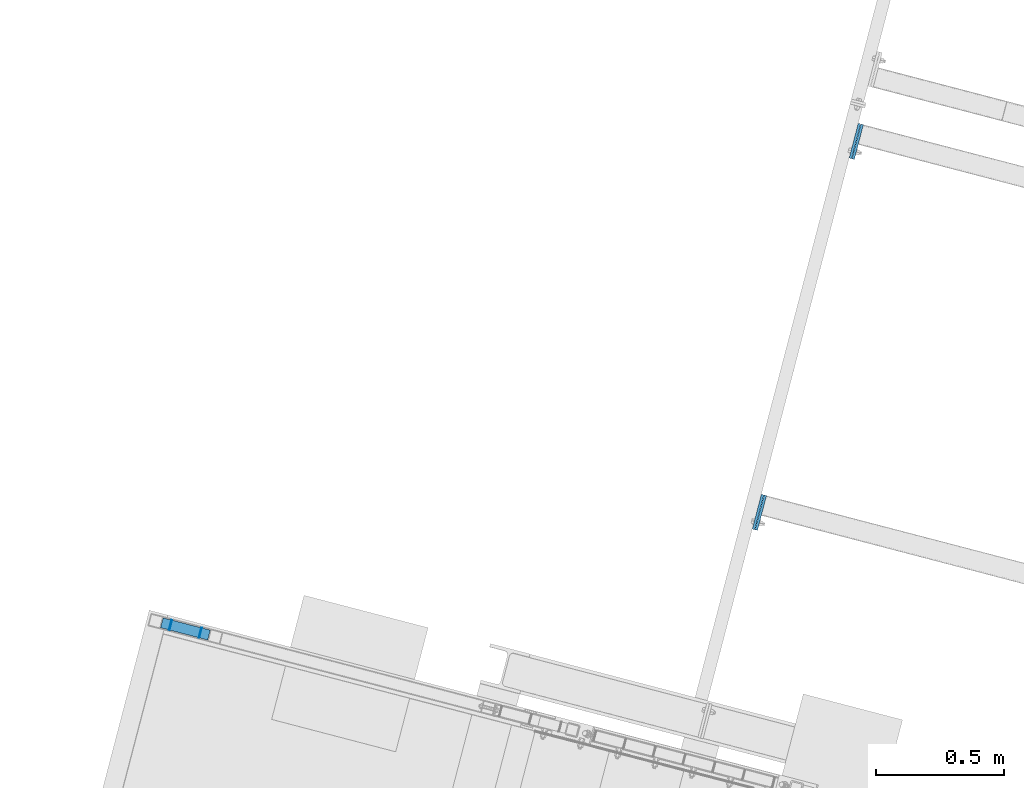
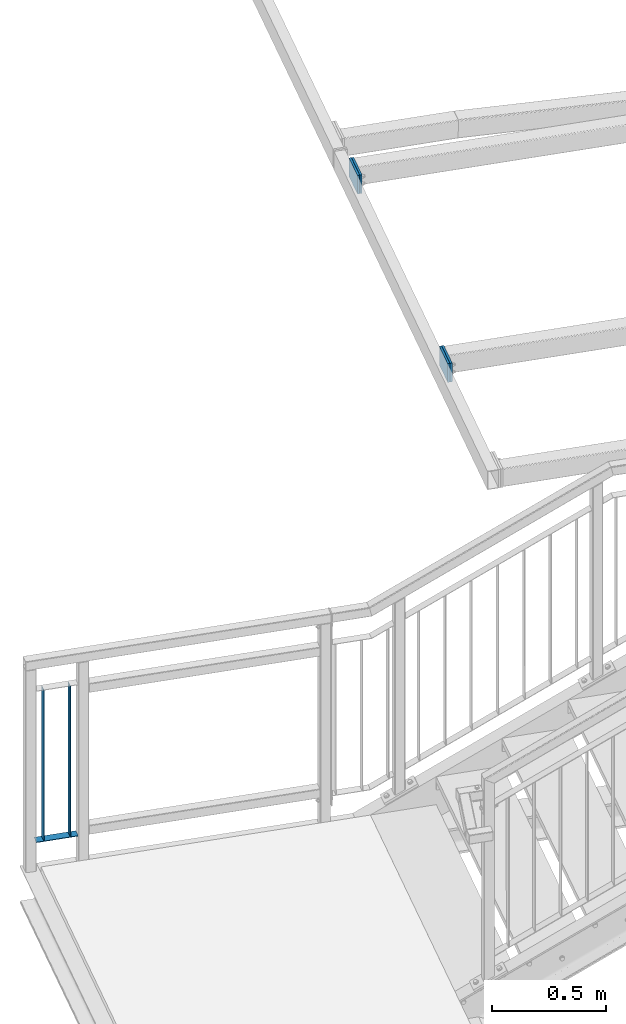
# One storey, part 79 of 169: 7 discrete accessories, 3 elements without a shape of their own.
"""IFC2X3 building model written with IfcOpenShell, lengths in millimetres."""

from ifc_helpers import new_model, si_unit, frame, origin_with_axes, place, context, subcontext, project, spatial, polyline, outline, extrude, clip, halfspace, material, type_object, element, aggregate, save


model = new_model("IFC2X3")

# Units and contexts
model_context = context("Model", 3, precision=1e-05, world=origin_with_axes())
body_context = subcontext(model_context, "Body", "Model", "MODEL_VIEW")
ifc_project = project(units=[si_unit("LENGTHUNIT", "METRE", prefix="MILLI"), si_unit("AREAUNIT", "SQUARE_METRE"), si_unit("VOLUMEUNIT", "CUBIC_METRE"), si_unit("MASSUNIT", "GRAM", prefix="KILO"), si_unit("TIMEUNIT", "SECOND"), si_unit("PLANEANGLEUNIT", "RADIAN"), si_unit("SOLIDANGLEUNIT", "STERADIAN"), si_unit("THERMODYNAMICTEMPERATUREUNIT", "DEGREE_CELSIUS"), si_unit("LUMINOUSINTENSITYUNIT", "LUMEN")], contexts=[model_context])

# Site, building, storey
site_placement = place(None, origin_with_axes())
site = spatial("IfcSite", under=ifc_project, at=site_placement, Name="Undefined", CompositionType="ELEMENT")
building_placement = place(site_placement, origin_with_axes())
building = spatial("IfcBuilding", under=site, at=building_placement, Name="Undefined", CompositionType="ELEMENT")
storey_placement = place(building_placement, origin_with_axes())
storey = spatial("IfcBuildingStorey", under=building, at=storey_placement, Name="Undefined", CompositionType="ELEMENT", Elevation=0.0)

# Assembly, discrete accessory
assembly_1_placement = place(storey_placement, origin_with_axes())
assembly_1 = element("IfcElementAssembly", 1, at=assembly_1_placement, inside=storey, Name="Steel Assembly", AssemblyPlace="NOTDEFINED", PredefinedType="RIGID_FRAME")
ifc_material = material(Name="STEEL/S235")
discrete_accessory_type_1 = type_object("IfcDiscreteAccessoryType", Name="BLACHA")
discrete_accessory_1_placement = place(assembly_1_placement, frame((-26686.2427223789, 9615.09982110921, 13925.5984578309), z_axis=(0.967563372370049, -0.252628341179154, 0.000204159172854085), x_axis=(-0.000162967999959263, 0.000183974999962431, 0.999999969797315)))
discrete_accessory_1 = element("IfcDiscreteAccessory", 2, at=discrete_accessory_1_placement, type_object=discrete_accessory_type_1, material=ifc_material, Name="BLACHA", ObjectType="BL10*140", context=body_context, shape_type="SweptSolid", body=[
    extrude(outline(polyline([(1.4915713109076e-10, 69.9999999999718), (100.000001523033, 69.9999999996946), (100.000001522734, -70.0000000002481), (-1.4915713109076e-10, -69.9999999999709), (1.4915713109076e-10, 69.9999999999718)])), frame((-1.81898926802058e-12, -1.18000176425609e-16, -5.00000000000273), z_axis=(0.0, 0.0, 1.0), x_axis=(1.0, 0.0, 0.0)), (0.0, 0.0, 1.0), 10.0),
])

# Assembly, discrete accessories
assembly_2_placement = place(storey_placement, origin_with_axes())
assembly_2 = element("IfcElementAssembly", 3, at=assembly_2_placement, inside=storey, Name="Steel Assembly", AssemblyPlace="NOTDEFINED", PredefinedType="RIGID_FRAME")
discrete_accessory_2_placement = place(assembly_2_placement, frame((-26696.8943639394, 9617.8809380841, 13925.5990043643), z_axis=(0.967563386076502, -0.25262836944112, 2.96259202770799e-05), x_axis=(5.90399999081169e-06, 0.000139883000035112, 0.999999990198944)))
discrete_accessory_2 = element("IfcDiscreteAccessory", 4, at=discrete_accessory_2_placement, type_object=discrete_accessory_type_1, material=ifc_material, Name="BLACHA", ObjectType="BL10*140", context=body_context, shape_type="SweptSolid", body=[
    extrude(outline(polyline([(1.4915713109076e-10, 69.9999999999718), (100.000001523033, 69.9999999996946), (100.000001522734, -70.0000000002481), (-1.4915713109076e-10, -69.9999999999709), (1.4915713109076e-10, 69.9999999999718)])), frame((-1.81898926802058e-12, -1.18000176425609e-16, -5.00000000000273), z_axis=(0.0, 0.0, 1.0), x_axis=(1.0, 0.0, 0.0)), (0.0, 0.0, 1.0), 10.0),
])
discrete_accessory_3_placement = place(assembly_2_placement, frame((-26319.2151399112, 11064.3874566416, 13925.3944331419), z_axis=(0.967563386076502, -0.25262836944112, 2.96259202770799e-05), x_axis=(5.90399999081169e-06, 0.000139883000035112, 0.999999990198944)))
discrete_accessory_3 = element("IfcDiscreteAccessory", 5, at=discrete_accessory_3_placement, type_object=discrete_accessory_type_1, material=ifc_material, Name="BLACHA", ObjectType="BL10*140", context=body_context, shape_type="SweptSolid", body=[
    extrude(outline(polyline([(1.4915713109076e-10, 69.9999999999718), (100.000001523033, 69.9999999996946), (100.000001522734, -70.0000000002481), (-1.4915713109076e-10, -69.9999999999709), (1.4915713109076e-10, 69.9999999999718)])), frame((-1.81898926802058e-12, -1.18000176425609e-16, -5.00000000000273), z_axis=(0.0, 0.0, 1.0), x_axis=(1.0, 0.0, 0.0)), (0.0, 0.0, 1.0), 10.0),
])
aggregate(assembly_2, [discrete_accessory_2, discrete_accessory_3])

# Discrete accessory
discrete_accessory_4_placement = place(assembly_1_placement, frame((-26308.56349835, 11061.6063396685, 13925.393886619), z_axis=(0.967563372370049, -0.252628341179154, 0.000204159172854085), x_axis=(-0.000162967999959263, 0.000183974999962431, 0.999999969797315)))
discrete_accessory_4 = element("IfcDiscreteAccessory", 6, at=discrete_accessory_4_placement, type_object=discrete_accessory_type_1, material=ifc_material, Name="BLACHA", ObjectType="BL10*140", context=body_context, shape_type="SweptSolid", body=[
    extrude(outline(polyline([(1.4915713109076e-10, 69.9999999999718), (100.000001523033, 69.9999999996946), (100.000001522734, -70.0000000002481), (-1.4915713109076e-10, -69.9999999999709), (1.4915713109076e-10, 69.9999999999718)])), frame((-1.81898926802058e-12, -1.18000176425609e-16, -5.00000000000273), z_axis=(0.0, 0.0, 1.0), x_axis=(1.0, 0.0, 0.0)), (0.0, 0.0, 1.0), 10.0),
])

aggregate(assembly_1, [discrete_accessory_1, discrete_accessory_4])

# Assembly, discrete accessories
assembly_3_placement = place(storey_placement, origin_with_axes())
assembly_3 = element("IfcElementAssembly", 7, at=assembly_3_placement, inside=storey, Name="Steel Assembly", AssemblyPlace="NOTDEFINED", PredefinedType="RIGID_FRAME")
discrete_accessory_type_2 = type_object("IfcDiscreteAccessoryType", Name="PORĘCZ")
discrete_accessory_5_placement = place(assembly_3_placement, frame((-28987.653187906, 9177.23327595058, 13454.9945165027), z_axis=(-0.967563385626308, 0.252628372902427, -1.72000000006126e-07), x_axis=(-3.45692487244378e-05, -0.000132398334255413, -0.999999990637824)))
discrete_accessory_5 = element("IfcDiscreteAccessory", 8, at=discrete_accessory_5_placement, type_object=discrete_accessory_type_2, material=ifc_material, Name="PORĘCZ", ObjectType="BL40*3", context=body_context, shape_type="Clipping", body=[
    clip(clip(clip(extrude(outline(polyline([(953.5, 20.0000000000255), (953.5, -20.0000000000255), (146.5, -20.0000000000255), (146.5, 20.0000000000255), (953.5, 20.0000000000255)])), frame((1.81898940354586e-12, -1.77635442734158e-15, -1.50000000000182), z_axis=(0.0, 0.0, 1.0), x_axis=(1.0, 0.0, 0.0)), (0.0, 0.0, 1.0), 3.0), halfspace(frame((146.5, 1000.00000000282, -1.78988557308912e-09), z_axis=(1.0, 0.0, 0.0), x_axis=(-2.54700353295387e-10, 0.0, -1.0)), True)), halfspace(frame((24.9999999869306, 1000.00000000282, -1.78988557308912e-09), z_axis=(1.0, 0.0, 0.0), x_axis=(-2.54700353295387e-10, 0.0, -1.0)), True)), halfspace(frame((953.5, 999.999999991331, -2.08819983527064e-09), z_axis=(-1.0, -3.46944695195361e-18, -1.38777878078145e-17), x_axis=(0.0, 0.0, 1.0)), True)),
])
discrete_accessory_6_placement = place(assembly_3_placement, frame((-28871.5455816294, 9146.91787120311, 13454.994516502), z_axis=(-0.967563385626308, 0.252628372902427, -1.72000000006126e-07), x_axis=(-3.45692487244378e-05, -0.000132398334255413, -0.999999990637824)))
discrete_accessory_6 = element("IfcDiscreteAccessory", 9, at=discrete_accessory_6_placement, type_object=discrete_accessory_type_2, material=ifc_material, Name="PORĘCZ", ObjectType="BL40*3", context=body_context, shape_type="Clipping", body=[
    clip(clip(clip(extrude(outline(polyline([(953.5, 20.0000000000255), (953.5, -20.0000000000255), (146.5, -20.0000000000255), (146.5, 20.0000000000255), (953.5, 20.0000000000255)])), frame((1.81898940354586e-12, -1.77635442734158e-15, -1.50000000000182), z_axis=(0.0, 0.0, 1.0), x_axis=(1.0, 0.0, 0.0)), (0.0, 0.0, 1.0), 3.0), halfspace(frame((146.5, 1000.00000000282, -1.78988557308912e-09), z_axis=(1.0, 0.0, 0.0), x_axis=(-2.54700353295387e-10, 0.0, -1.0)), True)), halfspace(frame((24.9999999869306, 1000.00000000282, -1.78988557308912e-09), z_axis=(1.0, 0.0, 0.0), x_axis=(-2.54700353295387e-10, 0.0, -1.0)), True)), halfspace(frame((953.5, 999.999999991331, -2.08819983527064e-09), z_axis=(-1.0, -3.46944695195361e-18, -1.38777878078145e-17), x_axis=(0.0, 0.0, 1.0)), True)),
])
discrete_accessory_7_placement = place(assembly_3_placement, frame((-29074.7669068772, 9199.84338921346, 12499.9945254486), z_axis=(-3.45692487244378e-05, -0.000132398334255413, -0.999999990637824), x_axis=(0.967563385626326, -0.252628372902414, 0.0)))
discrete_accessory_7 = element("IfcDiscreteAccessory", 10, at=discrete_accessory_7_placement, type_object=discrete_accessory_type_2, material=ifc_material, Name="PORĘCZ", ObjectType="BL40*3", context=body_context, shape_type="Clipping", body=[
    clip(clip(extrude(outline(polyline([(55.0000000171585, 20.000000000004), (245.000001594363, 19.9999999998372), (245.000000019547, -19.9999999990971), (55.0000000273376, -19.999999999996), (55.0000000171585, 20.000000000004)])), frame((1.81898940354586e-12, -1.77635442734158e-15, -1.50000000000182), z_axis=(0.0, 0.0, 1.0), x_axis=(1.0, 0.0, 0.0)), (0.0, 0.0, 1.0), 3.0), halfspace(frame((54.9999997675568, 1000.00000000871, -5.03860064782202e-09), z_axis=(1.0, 0.0, 0.0), x_axis=(-2.54700353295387e-10, 0.0, -1.0)), True)), halfspace(frame((244.999999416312, 999.999999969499, 1.54759618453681e-08), z_axis=(-1.0, -3.46944695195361e-18, -1.38777878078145e-17), x_axis=(0.0, 0.0, 1.0)), True)),
])
aggregate(assembly_3, [discrete_accessory_5, discrete_accessory_6, discrete_accessory_7])

save(model, "model.ifc")
